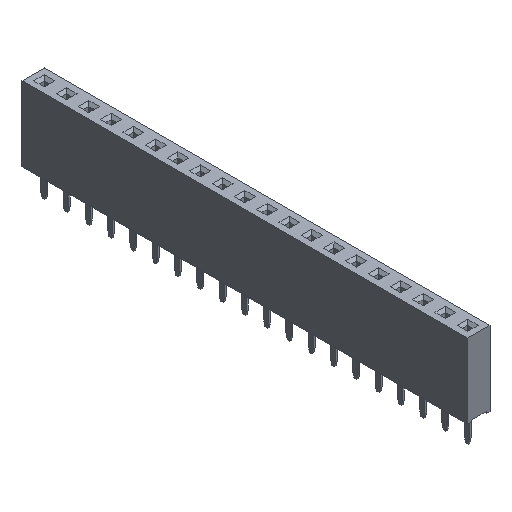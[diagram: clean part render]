
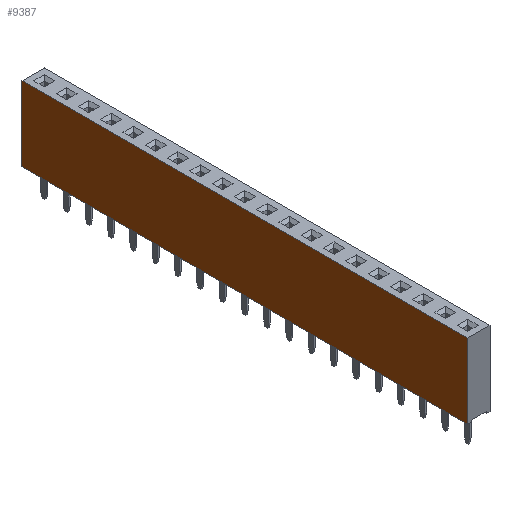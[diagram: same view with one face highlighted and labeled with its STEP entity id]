
A CAD part, isometric view. The second image highlights one B-rep face of the part: STEP entity #9387.
In plain terms, the highlighted planar face has unit normal (-1, 0, 0).
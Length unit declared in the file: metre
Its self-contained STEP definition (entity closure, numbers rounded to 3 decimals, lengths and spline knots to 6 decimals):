
#2541=ORIENTED_EDGE('',*,*,#3989,.T.);
#2542=ORIENTED_EDGE('',*,*,#3990,.T.);
#2543=ORIENTED_EDGE('',*,*,#3991,.F.);
#2544=ORIENTED_EDGE('',*,*,#3992,.F.);
#3989=EDGE_CURVE('',#4813,#4814,#6069,.T.);
#3990=EDGE_CURVE('',#4814,#4815,#6070,.T.);
#3991=EDGE_CURVE('',#4816,#4815,#6071,.T.);
#3992=EDGE_CURVE('',#4813,#4816,#6072,.T.);
#4813=VERTEX_POINT('',#15924);
#4814=VERTEX_POINT('',#15925);
#4815=VERTEX_POINT('',#15927);
#4816=VERTEX_POINT('',#15929);
#6069=LINE('',#15923,#7333);
#6070=LINE('',#15926,#7334);
#6071=LINE('',#15928,#7335);
#6072=LINE('',#15930,#7336);
#7333=VECTOR('',#13359,1.);
#7334=VECTOR('',#13360,1.);
#7335=VECTOR('',#13361,1.);
#7336=VECTOR('',#13362,1.);
#7837=EDGE_LOOP('',(#2541,#2542,#2543,#2544));
#8367=FACE_BOUND('',#7837,.T.);
#8897=PLANE('',#11145);
#9387=ADVANCED_FACE('',(#8367),#8897,.F.);
#11145=AXIS2_PLACEMENT_3D('',#15922,#13357,#13358);
#13357=DIRECTION('',(1.,0.,0.));
#13358=DIRECTION('',(0.,-1.,0.));
#13359=DIRECTION('',(0.,-1.,0.));
#13360=DIRECTION('',(0.,0.,1.));
#13361=DIRECTION('',(0.,-1.,0.));
#13362=DIRECTION('',(0.,0.,1.));
#15922=CARTESIAN_POINT('',(0.15473,-0.07473,0.001595));
#15923=CARTESIAN_POINT('',(0.15473,-0.07473,0.001595));
#15924=CARTESIAN_POINT('',(0.15473,-0.07473,0.001595));
#15925=CARTESIAN_POINT('',(0.15473,-0.12553,0.001595));
#15926=CARTESIAN_POINT('',(0.15473,-0.12553,0.001595));
#15927=CARTESIAN_POINT('',(0.15473,-0.12553,0.010095));
#15928=CARTESIAN_POINT('',(0.15473,-0.07473,0.010095));
#15929=CARTESIAN_POINT('',(0.15473,-0.07473,0.010095));
#15930=CARTESIAN_POINT('',(0.15473,-0.07473,0.001595));
